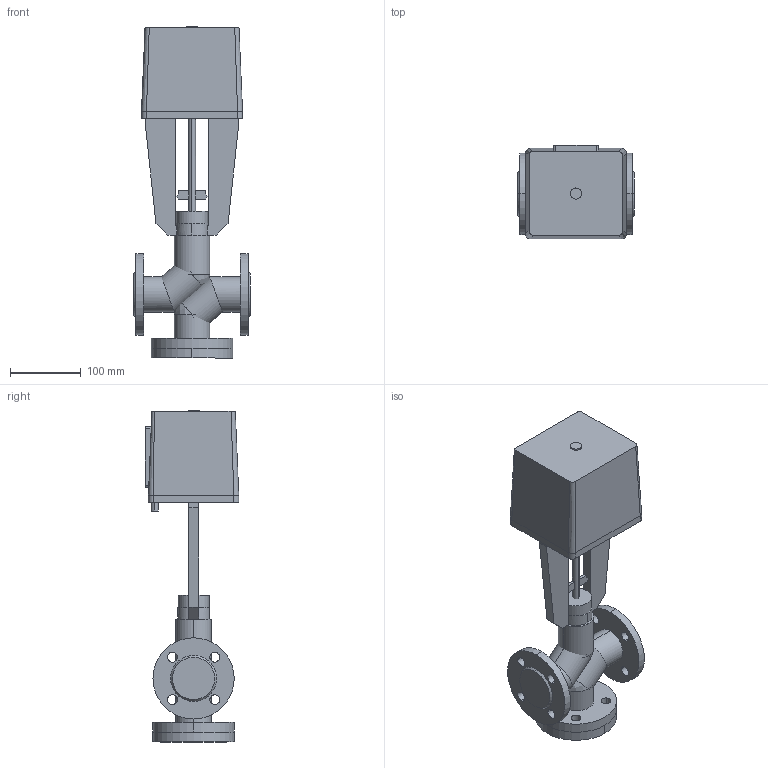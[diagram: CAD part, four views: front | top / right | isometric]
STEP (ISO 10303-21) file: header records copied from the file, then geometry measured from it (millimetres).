
FILE_DESCRIPTION(/* description */ (''),/* implementation_level */ '2;1');
FILE_NAME(/* name */ 'ТРК DN25 PN 1.6 МПа LEA 1200',/* time_stamp */ '2026-07-14T23:07:23+03:00',/* author */ (''),/* organization */ (''),/* preprocessor_version */ 'ST-DEVELOPER v20',/* originating_system */ '',/* authorisation */ '');
FILE_SCHEMA (('AP242_MANAGED_MODEL_BASED_3D_ENGINEERING_MIM_LF { 1 0 10303 442 1 1 4 }'));
Length unit declared in the file: millimetre
Products named in the file (14): TopLevelAssembly; Выдавливание; Модификатор; Модификатор_1; Выдавливание_
1; Выдавливание_
2; Вращение; Выдавливание_
3; Выдавливание_
4; 1600; Переход; Объемная геометрия 
присоединена; Полый Выдавливание; Объемная геометрия 
присоединена_1
Assembly tree (13 placements, depth 2):
  TopLevelAssembly
    Выдавливание
    Модификатор
    Модификатор_1
    Выдавливание_
1
    Выдавливание_
2
    Вращение
    Выдавливание_
3
    Выдавливание_
4
    1600
    Переход
    Объемная геометрия 
присоединена
    Полый Выдавливание
    Объемная геометрия 
присоединена_1
Bounding box: 165 x 132.49 x 470 mm (x, y, z)
Volume: 3584211.5 mm3; surface area: 374220.4 mm2
Topology: 18 solids, 18 shells, 159 faces, 366 edges, 240 vertices
Faces by surface type: plane 77, cylinder 70, bspline 8, cone 4
Entity records: 5164 total; most frequent: CARTESIAN_POINT 972, DIRECTION 882, ORIENTED_EDGE 716, EDGE_CURVE 358, AXIS2_PLACEMENT_3D 346, VERTEX_POINT 240, EDGE_LOOP 194, LINE 190
